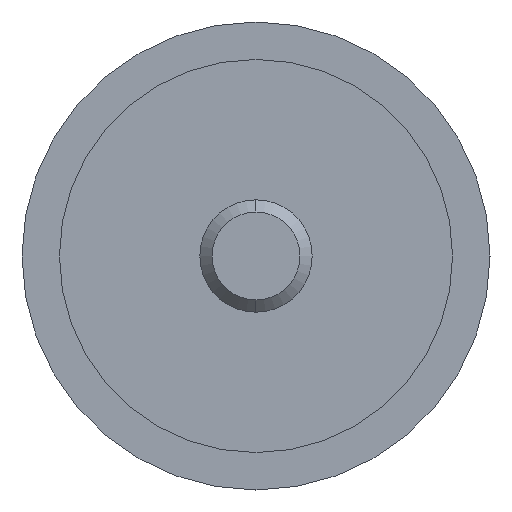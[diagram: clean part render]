
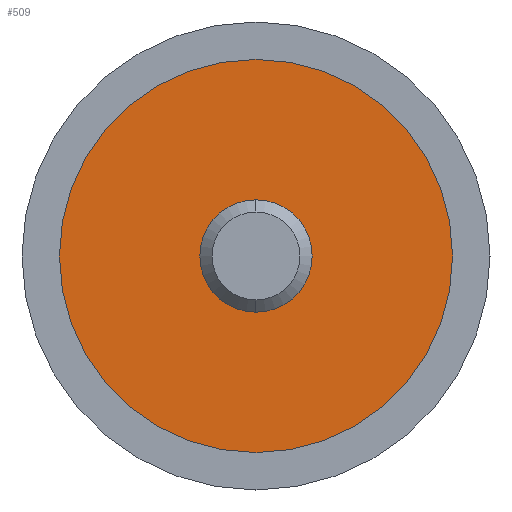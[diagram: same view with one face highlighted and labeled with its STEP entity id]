
A CAD part, left-side view. The second image highlights one B-rep face of the part: STEP entity #509.
In plain terms, the highlighted planar face has unit normal (-1, 0, 0).
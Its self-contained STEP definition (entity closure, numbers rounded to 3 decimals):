
#6 = VERTEX_POINT ( 'NONE', #669 ) ;
#9 = CIRCLE ( 'NONE', #403, 10.5 ) ;
#13 = CARTESIAN_POINT ( 'NONE',  ( -7.49, 10.5, 0. ) ) ;
#16 = VERTEX_POINT ( 'NONE', #365 ) ;
#19 = AXIS2_PLACEMENT_3D ( 'NONE', #598, #431, #633 ) ;
#30 = AXIS2_PLACEMENT_3D ( 'NONE', #474, #418, #321 ) ;
#37 = AXIS2_PLACEMENT_3D ( 'NONE', #323, #154, #539 ) ;
#67 = ORIENTED_EDGE ( 'NONE', *, *, #297, .T. ) ;
#90 = EDGE_CURVE ( 'NONE', #16, #168, #266, .T. ) ;
#112 = PLANE ( 'NONE',  #434 ) ;
#154 = DIRECTION ( 'NONE',  ( -1., 0., 0. ) ) ;
#156 = CIRCLE ( 'NONE', #30, 3. ) ;
#168 = VERTEX_POINT ( 'NONE', #440 ) ;
#185 = ORIENTED_EDGE ( 'NONE', *, *, #461, .T. ) ;
#211 = DIRECTION ( 'NONE',  ( -1., 0., 0. ) ) ;
#216 = CARTESIAN_POINT ( 'NONE',  ( -7.49, 0., 0. ) ) ;
#231 = DIRECTION ( 'NONE',  ( 1., 0., 0. ) ) ;
#247 = CIRCLE ( 'NONE', #19, 10.5 ) ;
#266 = CIRCLE ( 'NONE', #37, 3. ) ;
#285 = CARTESIAN_POINT ( 'NONE',  ( -7.49, 0., -10.5 ) ) ;
#297 = EDGE_CURVE ( 'NONE', #6, #346, #9, .T. ) ;
#313 = EDGE_LOOP ( 'NONE', ( #67, #185 ) ) ;
#321 = DIRECTION ( 'NONE',  ( 0., 0., -1. ) ) ;
#323 = CARTESIAN_POINT ( 'NONE',  ( -7.49, 0., 0. ) ) ;
#346 = VERTEX_POINT ( 'NONE', #285 ) ;
#365 = CARTESIAN_POINT ( 'NONE',  ( -7.49, 0., 3. ) ) ;
#388 = ORIENTED_EDGE ( 'NONE', *, *, #90, .F. ) ;
#389 = FACE_OUTER_BOUND ( 'NONE', #313, .T. ) ;
#403 = AXIS2_PLACEMENT_3D ( 'NONE', #216, #211, #591 ) ;
#418 = DIRECTION ( 'NONE',  ( -1., 0., 0. ) ) ;
#431 = DIRECTION ( 'NONE',  ( -1., 0., 0. ) ) ;
#434 = AXIS2_PLACEMENT_3D ( 'NONE', #13, #231, #662 ) ;
#440 = CARTESIAN_POINT ( 'NONE',  ( -7.49, 0., -3. ) ) ;
#461 = EDGE_CURVE ( 'NONE', #346, #6, #247, .T. ) ;
#474 = CARTESIAN_POINT ( 'NONE',  ( -7.49, 0., 0. ) ) ;
#509 = ADVANCED_FACE ( 'NONE', ( #389, #597 ), #112, .F. ) ;
#539 = DIRECTION ( 'NONE',  ( 0., 0., -1. ) ) ;
#547 = EDGE_LOOP ( 'NONE', ( #388, #548 ) ) ;
#548 = ORIENTED_EDGE ( 'NONE', *, *, #661, .F. ) ;
#591 = DIRECTION ( 'NONE',  ( 0., 0., 1. ) ) ;
#597 = FACE_BOUND ( 'NONE', #547, .T. ) ;
#598 = CARTESIAN_POINT ( 'NONE',  ( -7.49, 0., 0. ) ) ;
#633 = DIRECTION ( 'NONE',  ( 0., 0., 1. ) ) ;
#661 = EDGE_CURVE ( 'NONE', #168, #16, #156, .T. ) ;
#662 = DIRECTION ( 'NONE',  ( 0., 0., -1. ) ) ;
#669 = CARTESIAN_POINT ( 'NONE',  ( -7.49, 0., 10.5 ) ) ;
